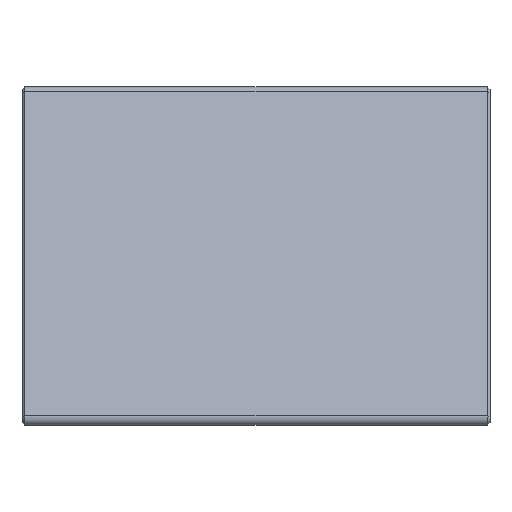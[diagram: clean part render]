
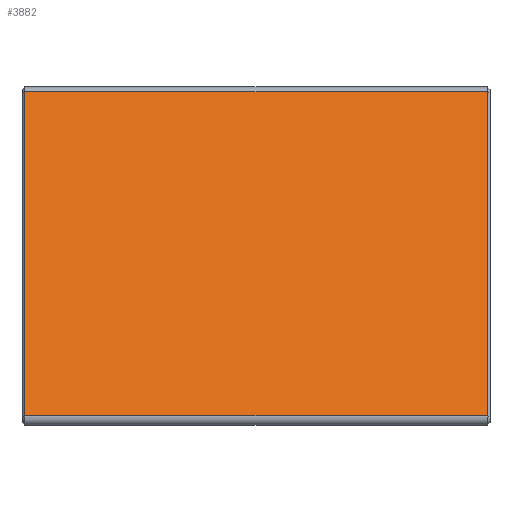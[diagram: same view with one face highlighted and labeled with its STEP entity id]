
A CAD part, front view. The second image highlights one B-rep face of the part: STEP entity #3882.
In plain terms, the highlighted planar face has unit normal (0, -0.951, 0.309).
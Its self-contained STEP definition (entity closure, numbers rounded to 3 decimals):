
#1062 = PLANE('',#1063);
#1063 = AXIS2_PLACEMENT_3D('',#1064,#1065,#1066);
#1064 = CARTESIAN_POINT('',(-49.7,-42.881,77.172));
#1065 = DIRECTION('',(-0.707,-0.672,0.219));
#1066 = DIRECTION('',(0.,0.309,0.951)
  );
#1703 = PLANE('',#1704);
#1704 = AXIS2_PLACEMENT_3D('',#1705,#1706,#1707);
#1705 = CARTESIAN_POINT('',(49.7,-42.881,77.172));
#1706 = DIRECTION('',(-0.707,0.672,-0.219));
#1707 = DIRECTION('',(0.,0.309,0.951)
  );
#2163 = CYLINDRICAL_SURFACE('',#2164,1.5);
#2164 = AXIS2_PLACEMENT_3D('',#2165,#2166,#2167);
#2165 = CARTESIAN_POINT('',(-50.,-64.257,7.5));
#2166 = DIRECTION('',(1.,0.,0.));
#2167 = DIRECTION('',(0.,0.,-1.));
#2247 = VERTEX_POINT('',#2248);
#2248 = CARTESIAN_POINT('',(-49.4,-65.684,7.964));
#2295 = VERTEX_POINT('',#2296);
#2296 = CARTESIAN_POINT('',(-49.4,-43.166,77.265));
#2315 = EDGE_CURVE('',#2295,#2247,#2316,.T.);
#2316 = SURFACE_CURVE('',#2317,(#2321,#2328),.PCURVE_S1.);
#2317 = LINE('',#2318,#2319);
#2318 = CARTESIAN_POINT('',(-49.4,-43.166,77.265));
#2319 = VECTOR('',#2320,1.);
#2320 = DIRECTION('',(0.,-0.309,-0.951));
#2321 = PCURVE('',#1062,#2322);
#2322 = DEFINITIONAL_REPRESENTATION('',(#2323),#2327);
#2323 = LINE('',#2324,#2325);
#2324 = CARTESIAN_POINT('',(0.,-0.424));
#2325 = VECTOR('',#2326,1.);
#2326 = DIRECTION('',(-1.,0.));
#2327 = ( GEOMETRIC_REPRESENTATION_CONTEXT(2) 
PARAMETRIC_REPRESENTATION_CONTEXT() REPRESENTATION_CONTEXT('2D SPACE',''
  ) );
#2328 = PCURVE('',#2329,#2334);
#2329 = PLANE('',#2330);
#2330 = AXIS2_PLACEMENT_3D('',#2331,#2332,#2333);
#2331 = CARTESIAN_POINT('',(-50.,-42.829,78.302));
#2332 = DIRECTION('',(0.,0.951,-0.309));
#2333 = DIRECTION('',(0.,-0.309,-0.951));
#2334 = DEFINITIONAL_REPRESENTATION('',(#2335),#2339);
#2335 = LINE('',#2336,#2337);
#2336 = CARTESIAN_POINT('',(1.09,-0.6));
#2337 = VECTOR('',#2338,1.);
#2338 = DIRECTION('',(1.,0.));
#2339 = ( GEOMETRIC_REPRESENTATION_CONTEXT(2) 
PARAMETRIC_REPRESENTATION_CONTEXT() REPRESENTATION_CONTEXT('2D SPACE',''
  ) );
#2382 = CYLINDRICAL_SURFACE('',#2383,1.5);
#2383 = AXIS2_PLACEMENT_3D('',#2384,#2385,#2386);
#2384 = CARTESIAN_POINT('',(-50.,-41.74,76.802));
#2385 = DIRECTION('',(1.,0.,0.));
#2386 = DIRECTION('',(0.,-0.951,0.309));
#3030 = VERTEX_POINT('',#3031);
#3031 = CARTESIAN_POINT('',(49.4,-65.684,7.964));
#3078 = VERTEX_POINT('',#3079);
#3079 = CARTESIAN_POINT('',(49.4,-43.166,77.265));
#3098 = EDGE_CURVE('',#3078,#3030,#3099,.T.);
#3099 = SURFACE_CURVE('',#3100,(#3104,#3111),.PCURVE_S1.);
#3100 = LINE('',#3101,#3102);
#3101 = CARTESIAN_POINT('',(49.4,-43.166,77.265));
#3102 = VECTOR('',#3103,1.);
#3103 = DIRECTION('',(0.,-0.309,-0.951));
#3104 = PCURVE('',#1703,#3105);
#3105 = DEFINITIONAL_REPRESENTATION('',(#3106),#3110);
#3106 = LINE('',#3107,#3108);
#3107 = CARTESIAN_POINT('',(0.,-0.424));
#3108 = VECTOR('',#3109,1.);
#3109 = DIRECTION('',(-1.,0.));
#3110 = ( GEOMETRIC_REPRESENTATION_CONTEXT(2) 
PARAMETRIC_REPRESENTATION_CONTEXT() REPRESENTATION_CONTEXT('2D SPACE',''
  ) );
#3111 = PCURVE('',#2329,#3112);
#3112 = DEFINITIONAL_REPRESENTATION('',(#3113),#3117);
#3113 = LINE('',#3114,#3115);
#3114 = CARTESIAN_POINT('',(1.09,-99.4));
#3115 = VECTOR('',#3116,1.);
#3116 = DIRECTION('',(1.,0.));
#3117 = ( GEOMETRIC_REPRESENTATION_CONTEXT(2) 
PARAMETRIC_REPRESENTATION_CONTEXT() REPRESENTATION_CONTEXT('2D SPACE',''
  ) );
#3861 = EDGE_CURVE('',#2247,#3030,#3862,.T.);
#3862 = SURFACE_CURVE('',#3863,(#3867,#3874),.PCURVE_S1.);
#3863 = LINE('',#3864,#3865);
#3864 = CARTESIAN_POINT('',(-50.,-65.684,7.964));
#3865 = VECTOR('',#3866,1.);
#3866 = DIRECTION('',(1.,0.,0.));
#3867 = PCURVE('',#2163,#3868);
#3868 = DEFINITIONAL_REPRESENTATION('',(#3869),#3873);
#3869 = LINE('',#3870,#3871);
#3870 = CARTESIAN_POINT('',(-1.885,0.));
#3871 = VECTOR('',#3872,1.);
#3872 = DIRECTION('',(-0.,1.));
#3873 = ( GEOMETRIC_REPRESENTATION_CONTEXT(2) 
PARAMETRIC_REPRESENTATION_CONTEXT() REPRESENTATION_CONTEXT('2D SPACE',''
  ) );
#3874 = PCURVE('',#2329,#3875);
#3875 = DEFINITIONAL_REPRESENTATION('',(#3876),#3880);
#3876 = LINE('',#3877,#3878);
#3877 = CARTESIAN_POINT('',(73.958,0.));
#3878 = VECTOR('',#3879,1.);
#3879 = DIRECTION('',(0.,-1.));
#3880 = ( GEOMETRIC_REPRESENTATION_CONTEXT(2) 
PARAMETRIC_REPRESENTATION_CONTEXT() REPRESENTATION_CONTEXT('2D SPACE',''
  ) );
#3882 = ADVANCED_FACE('',(#3883),#2329,.F.);
#3883 = FACE_BOUND('',#3884,.F.);
#3884 = EDGE_LOOP('',(#3885,#3906,#3907,#3908));
#3885 = ORIENTED_EDGE('',*,*,#3886,.T.);
#3886 = EDGE_CURVE('',#2295,#3078,#3887,.T.);
#3887 = SURFACE_CURVE('',#3888,(#3892,#3899),.PCURVE_S1.);
#3888 = LINE('',#3889,#3890);
#3889 = CARTESIAN_POINT('',(-50.,-43.166,77.265));
#3890 = VECTOR('',#3891,1.);
#3891 = DIRECTION('',(1.,0.,0.));
#3892 = PCURVE('',#2329,#3893);
#3893 = DEFINITIONAL_REPRESENTATION('',(#3894),#3898);
#3894 = LINE('',#3895,#3896);
#3895 = CARTESIAN_POINT('',(1.09,0.));
#3896 = VECTOR('',#3897,1.);
#3897 = DIRECTION('',(0.,-1.));
#3898 = ( GEOMETRIC_REPRESENTATION_CONTEXT(2) 
PARAMETRIC_REPRESENTATION_CONTEXT() REPRESENTATION_CONTEXT('2D SPACE',''
  ) );
#3899 = PCURVE('',#2382,#3900);
#3900 = DEFINITIONAL_REPRESENTATION('',(#3901),#3905);
#3901 = LINE('',#3902,#3903);
#3902 = CARTESIAN_POINT('',(-0.,0.));
#3903 = VECTOR('',#3904,1.);
#3904 = DIRECTION('',(-0.,1.));
#3905 = ( GEOMETRIC_REPRESENTATION_CONTEXT(2) 
PARAMETRIC_REPRESENTATION_CONTEXT() REPRESENTATION_CONTEXT('2D SPACE',''
  ) );
#3906 = ORIENTED_EDGE('',*,*,#3098,.T.);
#3907 = ORIENTED_EDGE('',*,*,#3861,.F.);
#3908 = ORIENTED_EDGE('',*,*,#2315,.F.);
